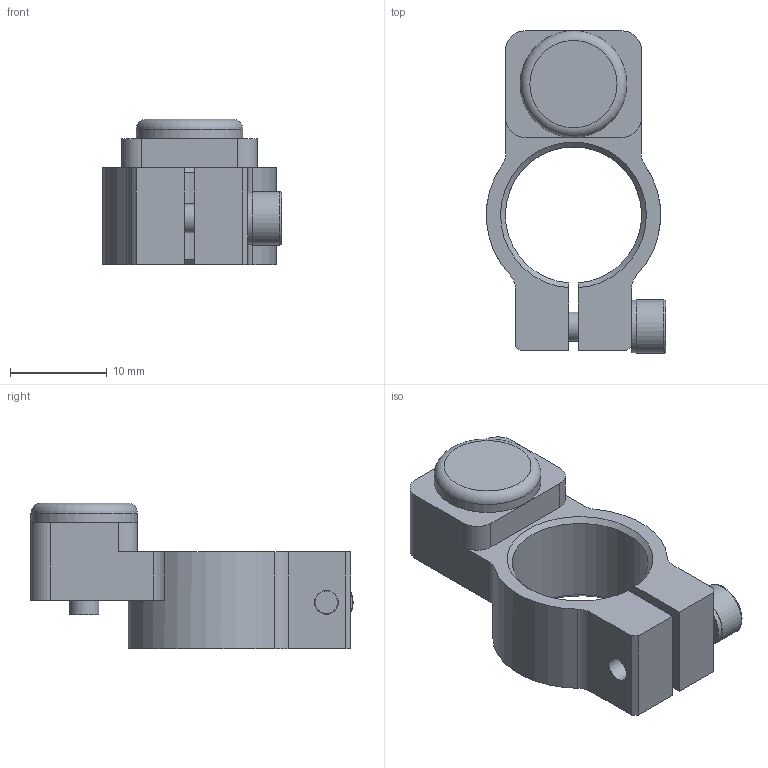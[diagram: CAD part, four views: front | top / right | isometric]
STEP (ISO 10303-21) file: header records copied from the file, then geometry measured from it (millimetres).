
FILE_DESCRIPTION(/* description */ ('Norm'),/* implementation_level */ '2;1');
FILE_NAME(/* name */ 'W:\Technik\Konstruktion\CAD-Daten\EOAT\GR04_\GR04.034-H\Kundenzeichnung\GR04.034-H-Kd.stp',/* time_stamp */ '2019-10-10T09:40:34+02:00',/* author */ ('Rkob'),/* organization */ (''),/* preprocessor_version */ 'ST-DEVELOPER v17',/* originating_system */ 'Autodesk Inventor 2019',/* authorisation */ '');
FILE_SCHEMA (('AUTOMOTIVE_DESIGN { 1 0 10303 214 3 1 1 }'));
Length unit declared in the file: millimetre
Products named in the file (1): GR04.034-H-Kd_Shrinkwrap_1
Bounding box: 18.48 x 33.25 x 15 mm (x, y, z)
Volume: 2709 mm3; surface area: 2537.8 mm2
Topology: 1 solids, 1 shells, 60 faces, 154 edges, 102 vertices
Faces by surface type: plane 35, cylinder 19, cone 4, torus 2
Full cylindrical faces by diameter (mm): 2.459 x1, 3 x2, 3.2 x1, 3.3 x1, 5.4 x1, 5.5 x1, 11 x1
Entity records: 1967 total; most frequent: DIRECTION 330, CARTESIAN_POINT 325, ORIENTED_EDGE 308, EDGE_CURVE 154, AXIS2_PLACEMENT_3D 119, VERTEX_POINT 102, LINE 92, VECTOR 92
